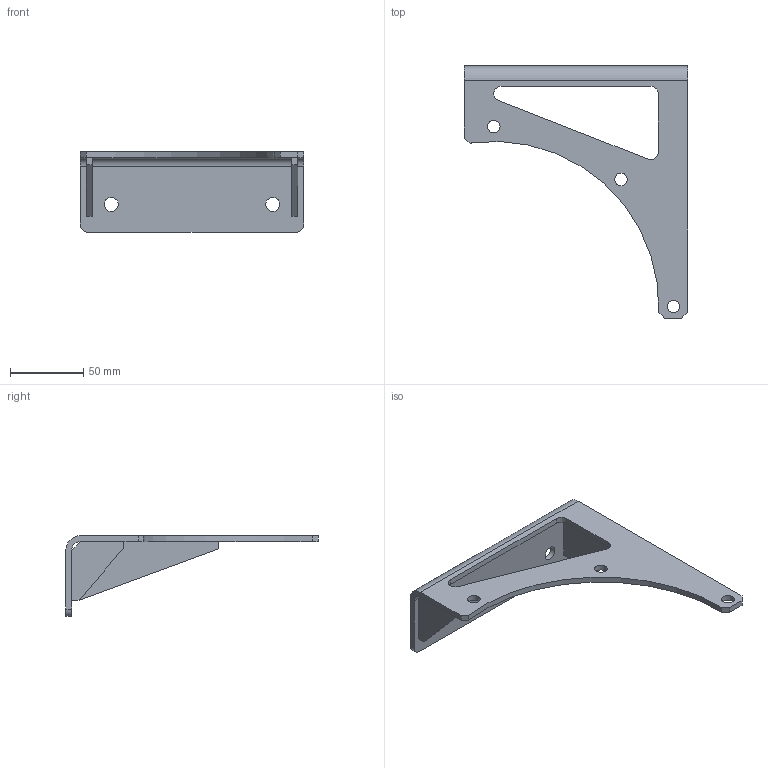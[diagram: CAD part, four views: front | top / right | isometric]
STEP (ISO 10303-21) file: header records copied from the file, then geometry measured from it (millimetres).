
FILE_DESCRIPTION(/* description */ ('PIED 2','CAx-IF Rec.Pracs.---Representation and Presentation of Product Manufacturing Information (PMI)---4.0---2014-10-13'),/* implementation_level */ '2;1');
FILE_NAME(/* name */ 'vv340038-A.stp',/* time_stamp */ '2025-09-24T13:43:19+02:00',/* author */ ('eraynal'),/* organization */ (''),/* preprocessor_version */ 'ST-DEVELOPER v20',/* originating_system */ 'Autodesk Inventor 2025',/* authorisation */ '');
FILE_SCHEMA (('AP242_MANAGED_MODEL_BASED_3D_ENGINEERING_MIM_LF { 1 0 10303 442 1 1 4 }'));
Length unit declared in the file: millimetre
Products named in the file (1): VICTOR.V.34.00.38
Bounding box: 152 x 172 x 55 mm (x, y, z)
Volume: 78360.7 mm3; surface area: 45113.1 mm2
Topology: 3 solids, 3 shells, 43 faces, 111 edges, 74 vertices
Faces by surface type: plane 30, cylinder 13
Full cylindrical faces by diameter (mm): 8.5 x3, 9.5 x2
Entity records: 1703 total; most frequent: CARTESIAN_POINT 348, DIRECTION 251, ORIENTED_EDGE 222, EDGE_CURVE 111, LINE 85, VECTOR 85, AXIS2_PLACEMENT_3D 83, VERTEX_POINT 74
